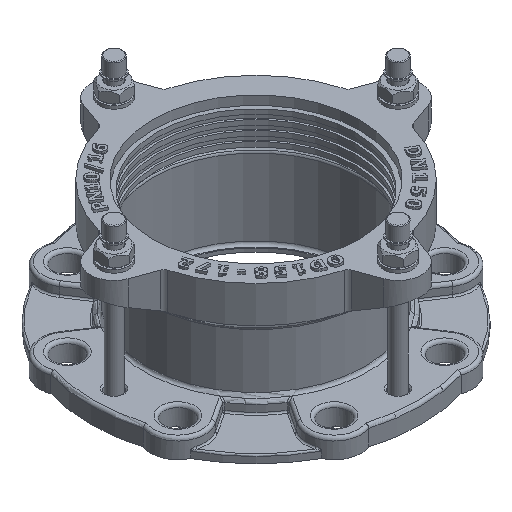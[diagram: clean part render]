
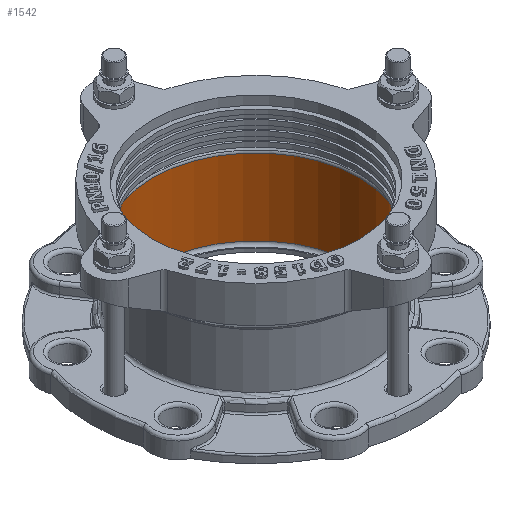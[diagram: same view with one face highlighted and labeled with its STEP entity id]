
A CAD part, isometric view. The second image highlights one B-rep face of the part: STEP entity #1542.
In plain terms, the highlighted cylindrical face has radius 86 mm (diameter 172 mm), a full revolution.
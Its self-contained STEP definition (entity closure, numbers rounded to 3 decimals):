
#1542=ADVANCED_FACE('',(#10232,#10234),#10236,.F.);
#10232=FACE_OUTER_BOUND('',#10233,.T.);
#10233=EDGE_LOOP('',(#15618));
#10234=FACE_OUTER_BOUND('',#10235,.T.);
#10235=EDGE_LOOP('',(#15619));
#10236=CYLINDRICAL_SURFACE('',#10237,86.);
#10237=AXIS2_PLACEMENT_3D('',#10238,#10239,#10240);
#10238=CARTESIAN_POINT('',(0.,0.,3.));
#10239=DIRECTION('',(0.,0.,1.));
#10240=DIRECTION('',(-1.,0.,0.));
#15618=ORIENTED_EDGE('',*,*,#20084,.F.);
#15619=ORIENTED_EDGE('',*,*,#20083,.T.);
#20083=EDGE_CURVE('',#22703,#22703,#22704,.F.);
#20084=EDGE_CURVE('',#22705,#22705,#22706,.T.);
#22703=VERTEX_POINT('',#32272);
#22704=CIRCLE('',#32273,86.);
#22705=VERTEX_POINT('',#32277);
#22706=CIRCLE('',#32278,86.);
#32272=CARTESIAN_POINT('',(0.,86.,5.5));
#32273=AXIS2_PLACEMENT_3D('',#32274,#32275,#32276);
#32274=CARTESIAN_POINT('',(0.,0.,5.5));
#32275=DIRECTION('',(0.,0.,1.));
#32276=DIRECTION('',(0.,1.,0.));
#32277=CARTESIAN_POINT('',(0.,86.,68.75));
#32278=AXIS2_PLACEMENT_3D('',#32279,#32280,#32281);
#32279=CARTESIAN_POINT('',(0.,0.,68.75));
#32280=DIRECTION('',(0.,0.,-1.));
#32281=DIRECTION('',(0.,1.,0.));
